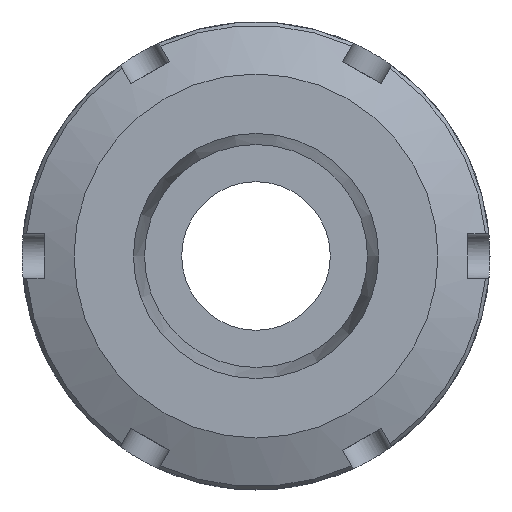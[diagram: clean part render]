
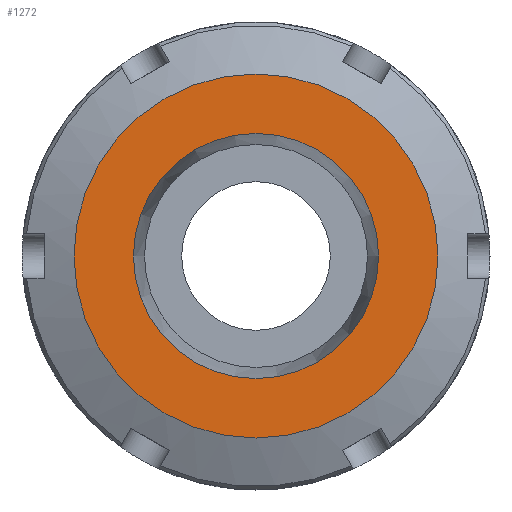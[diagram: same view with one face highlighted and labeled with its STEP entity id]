
A CAD part, front view. The second image highlights one B-rep face of the part: STEP entity #1272.
In plain terms, the highlighted planar face has unit normal (0, -1, 0) as drawn and (0, 1, 0) by its records, which use the part's own axes.
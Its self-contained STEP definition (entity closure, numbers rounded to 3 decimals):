
#101=FACE_BOUND('',#271,.T.);
#132=PLANE('',#1473);
#197=FACE_OUTER_BOUND('',#270,.T.);
#270=EDGE_LOOP('',(#1131,#1132));
#271=EDGE_LOOP('',(#1133,#1134));
#458=CIRCLE('',#1457,24.5);
#459=CIRCLE('',#1458,24.5);
#465=CIRCLE('',#1471,16.5);
#466=CIRCLE('',#1472,16.5);
#583=VERTEX_POINT('',#2374);
#584=VERTEX_POINT('',#2376);
#590=VERTEX_POINT('',#2400);
#591=VERTEX_POINT('',#2402);
#759=EDGE_CURVE('',#583,#584,#458,.T.);
#760=EDGE_CURVE('',#584,#583,#459,.T.);
#771=EDGE_CURVE('',#591,#590,#465,.T.);
#772=EDGE_CURVE('',#590,#591,#466,.T.);
#1131=ORIENTED_EDGE('',*,*,#760,.F.);
#1132=ORIENTED_EDGE('',*,*,#759,.F.);
#1133=ORIENTED_EDGE('',*,*,#771,.T.);
#1134=ORIENTED_EDGE('',*,*,#772,.T.);
#1272=ADVANCED_FACE('',(#197,#101),#132,.T.);
#1457=AXIS2_PLACEMENT_3D('',#2377,#1780,#1781);
#1458=AXIS2_PLACEMENT_3D('',#2378,#1782,#1783);
#1471=AXIS2_PLACEMENT_3D('',#2403,#1813,#1814);
#1472=AXIS2_PLACEMENT_3D('',#2404,#1815,#1816);
#1473=AXIS2_PLACEMENT_3D('',#2405,#1817,#1818);
#1780=DIRECTION('center_axis',(0.,-1.,0.));
#1781=DIRECTION('ref_axis',(1.,0.,0.));
#1782=DIRECTION('center_axis',(0.,-1.,0.));
#1783=DIRECTION('ref_axis',(1.,0.,0.));
#1813=DIRECTION('center_axis',(0.,-1.,0.));
#1814=DIRECTION('ref_axis',(1.,0.,0.));
#1815=DIRECTION('center_axis',(0.,-1.,0.));
#1816=DIRECTION('ref_axis',(1.,0.,0.));
#1817=DIRECTION('center_axis',(0.,1.,0.));
#1818=DIRECTION('ref_axis',(0.,0.,1.));
#2374=CARTESIAN_POINT('',(-24.5,21.923,0.));
#2376=CARTESIAN_POINT('',(24.5,21.923,0.));
#2377=CARTESIAN_POINT('Origin',(0.,21.923,0.));
#2378=CARTESIAN_POINT('Origin',(0.,21.923,0.));
#2400=CARTESIAN_POINT('',(-16.5,21.923,0.));
#2402=CARTESIAN_POINT('',(16.5,21.923,0.));
#2403=CARTESIAN_POINT('Origin',(0.,21.923,0.));
#2404=CARTESIAN_POINT('Origin',(0.,21.923,0.));
#2405=CARTESIAN_POINT('Origin',(24.5,21.923,0.));
